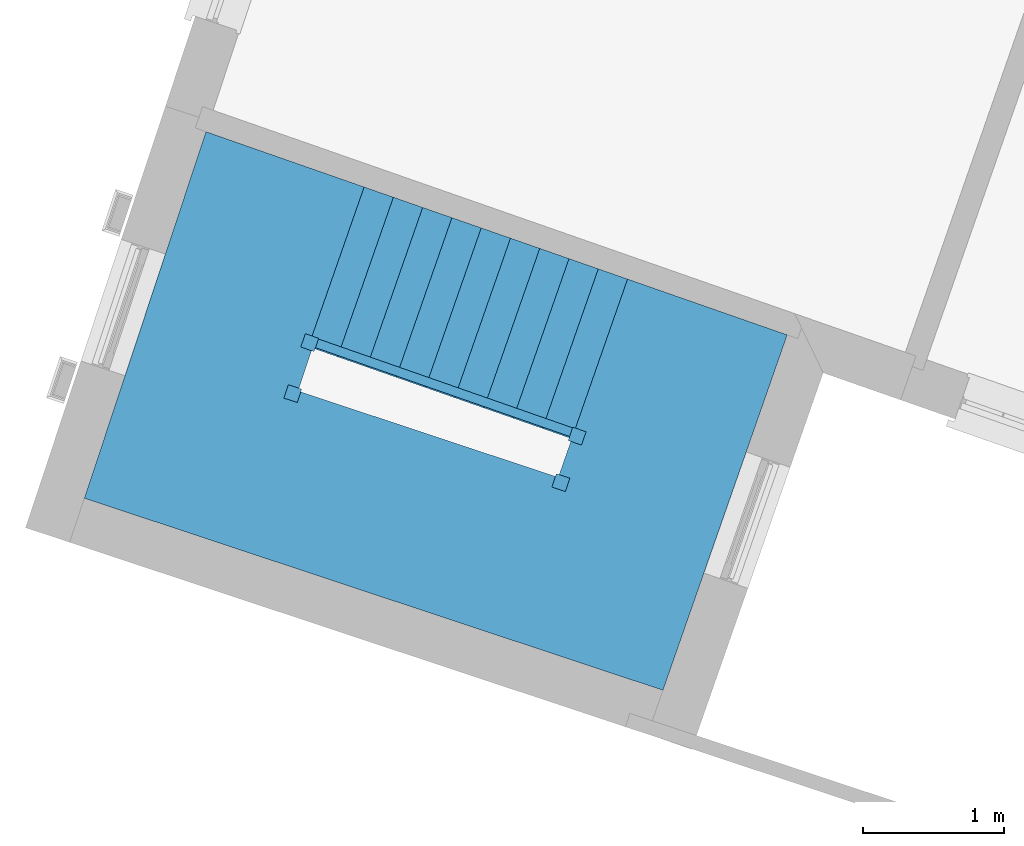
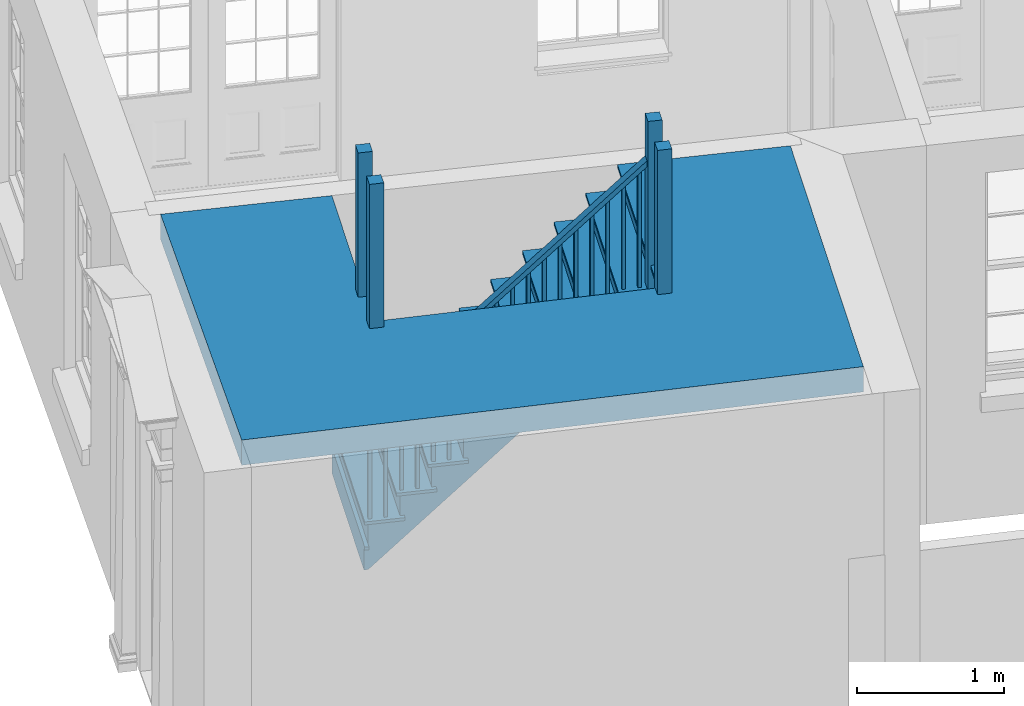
# One storey, part 10 of 10: 1 stair.
"""IFC4 building model written with IfcOpenShell, lengths in metres."""

from ifc_helpers import new_model, si_unit, frame, origin, origin_with_axes, place, context, subcontext, project, spatial, faceted_brep, element, save


model = new_model("IFC4")

# Units and contexts
model_context = context("Model", 3, world=origin_with_axes())
body_context = subcontext(model_context, "Body", "Model", "MODEL_VIEW")
ifc_project = project(units=[si_unit("PLANEANGLEUNIT", "RADIAN"), si_unit("MASSUNIT", "GRAM", prefix="KILO"), si_unit("FORCEUNIT", "NEWTON", prefix="KILO"), si_unit("LENGTHUNIT", "METRE"), si_unit("AREAUNIT", "SQUARE_METRE"), si_unit("VOLUMEUNIT", "CUBIC_METRE")], contexts=[model_context, model_context])

# Sites, building, storey
site_1_placement = place(None, origin_with_axes())
site_1 = spatial("IfcSite", under=ifc_project, at=site_1_placement, Name="Tamar")
site_2_placement = place(site_1_placement, origin_with_axes())
site_2 = spatial("IfcSite", under=site_1, at=site_2_placement, Name="Site plot-15", CompositionType="ELEMENT")
building_placement = place(None, origin_with_axes())
building = spatial("IfcBuilding", under=site_2, at=building_placement, Name="Building plot-15", CompositionType="ELEMENT")
storey_placement = place(None, frame((0.0, 0.0, 26.8), z_axis=(0.0, 0.0, 1.0), x_axis=(1.0, 0.0, 0.0)))
storey = spatial("IfcBuildingStorey", under=building, at=storey_placement, Name="plot-15 0", CompositionType="ELEMENT", Elevation=26.8)

# Stair
stair_placement = place(None, origin())
element("IfcStair", 1, at=stair_placement, inside=storey, Name="Stair", PredefinedType="NOTDEFINED", context=body_context, shape_type="Brep", body=[
    faceted_brep([(257.899192, 304.783267, 29.95), (257.530597, 303.672845, 29.95), (259.432677, 303.041466, 29.95), (259.801272, 304.151888, 29.95), (259.801272, 304.151888, 29.74), (259.432677, 303.041466, 29.74), (257.530597, 303.672845, 29.74), (257.899192, 304.783267, 29.74)], [[[0, 1, 2, 3]], [[4, 5, 6, 7]], [[7, 6, 1, 0]], [[6, 5, 2, 1]], [[5, 4, 3, 2]], [[4, 7, 0, 3]]]),
    faceted_brep([(259.801272, 304.151888, 29.925), (259.810723, 304.18036, 29.925), (259.801272, 304.151888, 29.95), (257.908643, 304.81174, 29.925), (257.899192, 304.783267, 29.925), (257.899192, 304.783267, 29.95), (259.810723, 304.18036, 29.95), (257.908643, 304.81174, 29.95)], [[[0, 1, 2]], [[3, 4, 5]], [[1, 6, 2]], [[7, 3, 5]], [[2, 6, 7, 5]], [[0, 2, 5, 4]], [[1, 0, 4, 3]], [[6, 1, 3, 7]]]),
    faceted_brep([(259.864478, 304.18359, 31.15), (259.76957, 304.215094, 31.15), (259.738066, 304.120186, 31.15), (259.832974, 304.088682, 31.15), (259.832974, 304.088682, 29.95), (259.738066, 304.120186, 29.95), (259.76957, 304.215094, 29.95), (259.864478, 304.18359, 29.95)], [[[0, 1, 2, 3]], [[4, 5, 6, 7]], [[7, 6, 1, 0]], [[6, 5, 2, 1]], [[5, 4, 3, 2]], [[4, 7, 0, 3]]]),
    faceted_brep([(259.801272, 304.151888, 29.95), (259.432677, 303.041466, 29.95), (260.525683, 302.678651, 29.95), (260.905729, 303.765786, 29.95), (260.905729, 303.765786, 29.74), (260.525683, 302.678651, 29.74), (259.432677, 303.041466, 29.74), (259.801272, 304.151888, 29.74)], [[[0, 1, 2, 3]], [[4, 5, 6, 7]], [[7, 6, 1, 0]], [[6, 5, 2, 1]], [[5, 4, 3, 2]], [[4, 7, 0, 3]]]),
    faceted_brep([(260.905729, 303.765786, 29.925), (260.915629, 303.794106, 29.925), (260.905729, 303.765786, 29.95), (259.811172, 304.180207, 29.925), (259.801272, 304.151888, 29.925), (259.801272, 304.151888, 29.95), (260.915629, 303.794106, 29.95), (259.811172, 304.180207, 29.95)], [[[0, 1, 2]], [[3, 4, 5]], [[1, 6, 2]], [[7, 3, 5]], [[2, 6, 7, 5]], [[0, 2, 5, 4]], [[1, 0, 4, 3]], [[6, 1, 3, 7]]]),
    faceted_brep([(259.864478, 304.18359, 29.95), (259.76957, 304.215094, 29.95), (259.738066, 304.120186, 29.95), (259.832974, 304.088682, 29.95), (259.832974, 304.088682, 29.45), (259.738066, 304.120186, 29.45), (259.76957, 304.215094, 29.45), (259.864478, 304.18359, 29.45)], [[[0, 1, 2, 3]], [[4, 5, 6, 7]], [[7, 6, 1, 0]], [[6, 5, 2, 1]], [[5, 4, 3, 2]], [[4, 7, 0, 3]]]),
    faceted_brep([(259.801272, 304.151888, 29.95), (260.905729, 303.765786, 29.95), (261.021107, 304.095826, 29.95), (259.916649, 304.481928, 29.95), (259.916649, 304.481928, 29.74), (261.021107, 304.095826, 29.74), (260.905729, 303.765786, 29.74), (259.801272, 304.151888, 29.74)], [[[0, 1, 2, 3]], [[4, 5, 6, 7]], [[7, 6, 1, 0]], [[6, 5, 2, 1]], [[5, 4, 3, 2]], [[4, 7, 0, 3]]]),
    faceted_brep([(259.916649, 304.481928, 29.925), (259.88833, 304.491828, 29.925), (259.916649, 304.481928, 29.95), (259.772953, 304.161788, 29.925), (259.801272, 304.151888, 29.925), (259.801272, 304.151888, 29.95), (259.88833, 304.491828, 29.95), (259.772953, 304.161788, 29.95)], [[[0, 1, 2]], [[3, 4, 5]], [[1, 6, 2]], [[7, 3, 5]], [[2, 6, 7, 5]], [[0, 2, 5, 4]], [[1, 0, 4, 3]], [[6, 1, 3, 7]]]),
    faceted_brep([(259.88595, 304.545627, 31.15), (259.85295, 304.451229, 31.15), (259.947348, 304.418229, 31.15), (259.980349, 304.512627, 31.15), (259.980349, 304.512627, 29.95), (259.947348, 304.418229, 29.95), (259.85295, 304.451229, 29.95), (259.88595, 304.545627, 29.95)], [[[0, 1, 2, 3]], [[4, 5, 6, 7]], [[7, 6, 1, 0]], [[6, 5, 2, 1]], [[5, 4, 3, 2]], [[4, 7, 0, 3]]]),
    faceted_brep([(259.916649, 304.481928, 29.95), (261.021107, 304.095826, 29.95), (261.407208, 305.200284, 29.95), (260.302751, 305.586385, 29.95), (260.302751, 305.586385, 29.74), (261.407208, 305.200284, 29.74), (261.021107, 304.095826, 29.74), (259.916649, 304.481928, 29.74)], [[[0, 1, 2, 3]], [[4, 5, 6, 7]], [[7, 6, 1, 0]], [[6, 5, 2, 1]], [[5, 4, 3, 2]], [[4, 7, 0, 3]]]),
    faceted_brep([(260.302751, 305.586385, 29.925), (260.274432, 305.596285, 29.925), (260.302751, 305.586385, 29.95), (259.88833, 304.491828, 29.925), (259.916649, 304.481928, 29.925), (259.916649, 304.481928, 29.95), (260.274432, 305.596285, 29.95), (259.88833, 304.491828, 29.95)], [[[0, 1, 2]], [[3, 4, 5]], [[1, 6, 2]], [[7, 3, 5]], [[2, 6, 7, 5]], [[0, 2, 5, 4]], [[1, 0, 4, 3]], [[6, 1, 3, 7]]]),
    faceted_brep([(259.88595, 304.545627, 29.95), (259.85295, 304.451229, 29.95), (259.947348, 304.418229, 29.95), (259.980349, 304.512627, 29.95), (259.980349, 304.512627, 29.45), (259.947348, 304.418229, 29.45), (259.85295, 304.451229, 29.45), (259.88595, 304.545627, 29.45)], [[[0, 1, 2, 3]], [[4, 5, 6, 7]], [[7, 6, 1, 0]], [[6, 5, 2, 1]], [[5, 4, 3, 2]], [[4, 7, 0, 3]]]),
    faceted_brep([(259.916649, 304.481928, 29.74), (260.302751, 305.586385, 29.74), (260.095075, 305.658986, 29.74), (259.708974, 304.554528, 29.74), (259.708974, 304.554528, 29.32), (260.095075, 305.658986, 29.32), (260.302751, 305.586385, 29.53), (259.916649, 304.481928, 29.53)], [[[0, 1, 2, 3]], [[4, 5, 6, 7]], [[7, 6, 1, 0]], [[1, 6, 5, 2]], [[5, 4, 3, 2]], [[3, 4, 7, 0]]]),
    faceted_brep([(260.066756, 305.668886, 29.715), (260.066756, 305.668886, 29.74), (260.095075, 305.658986, 29.715), (260.33107, 305.576485, 29.74), (260.33107, 305.576485, 29.715), (260.302751, 305.586385, 29.715), (260.095075, 305.658986, 29.74), (260.302751, 305.586385, 29.74), (259.670754, 304.536109, 29.74), (259.708974, 304.554528, 29.74), (259.708974, 304.554528, 29.715), (259.670754, 304.536109, 29.715), (259.935069, 304.443709, 29.74), (259.916649, 304.481928, 29.74), (259.916649, 304.481928, 29.715), (259.935069, 304.443709, 29.715)], [[[0, 1, 2]], [[3, 4, 5]], [[2, 1, 6]], [[3, 5, 7]], [[6, 1, 8, 9]], [[2, 6, 9, 10]], [[0, 2, 10, 11]], [[1, 0, 11, 8]], [[9, 8, 12, 13]], [[10, 9, 13, 14]], [[11, 10, 14, 15]], [[8, 11, 15, 12]], [[13, 12, 3, 7]], [[14, 13, 7, 5]], [[15, 14, 5, 4]], [[12, 15, 4, 3]]]),
    faceted_brep([(259.708974, 304.554528, 30.64), (259.732573, 304.546278, 30.64), (259.740823, 304.569878, 30.64), (259.717224, 304.578128, 30.64), (259.717224, 304.578128, 29.74), (259.740823, 304.569878, 29.74), (259.732573, 304.546278, 29.74), (259.708974, 304.554528, 29.74)], [[[0, 1, 2, 3]], [[4, 5, 6, 7]], [[7, 6, 1, 0]], [[6, 5, 2, 1]], [[5, 4, 3, 2]], [[4, 7, 0, 3]]]),
    faceted_brep([(259.812812, 304.518228, 30.745), (259.836411, 304.509978, 30.745), (259.844661, 304.533578, 30.745), (259.821062, 304.541828, 30.745), (259.821062, 304.541828, 29.74), (259.844661, 304.533578, 29.74), (259.836411, 304.509978, 29.74), (259.812812, 304.518228, 29.74)], [[[0, 1, 2, 3]], [[4, 5, 6, 7]], [[7, 6, 1, 0]], [[6, 5, 2, 1]], [[5, 4, 3, 2]], [[4, 7, 0, 3]]]),
    faceted_brep([(259.723824, 304.597008, 30.59), (259.702374, 304.535649, 30.59), (259.702374, 304.535649, 30.64), (259.723824, 304.597008, 30.64), (259.910049, 304.463048, 30.8), (259.9315, 304.524407, 30.8), (259.9315, 304.524407, 30.85), (259.910049, 304.463048, 30.85)], [[[0, 1, 2, 3]], [[4, 5, 6, 7]], [[0, 5, 4, 1]], [[3, 2, 7, 6]], [[0, 3, 6, 5]], [[2, 1, 4, 7]]]),
    faceted_brep([(259.708974, 304.554528, 29.53), (260.095075, 305.658986, 29.53), (259.8874, 305.731586, 29.53), (259.501298, 304.627129, 29.53), (259.501298, 304.627129, 29.11), (259.8874, 305.731586, 29.11), (260.095075, 305.658986, 29.32), (259.708974, 304.554528, 29.32)], [[[0, 1, 2, 3]], [[4, 5, 6, 7]], [[7, 6, 1, 0]], [[1, 6, 5, 2]], [[5, 4, 3, 2]], [[3, 4, 7, 0]]]),
    faceted_brep([(259.8874, 305.731586, 29.505), (259.85908, 305.741486, 29.505), (259.8874, 305.731586, 29.53), (260.123395, 305.649085, 29.505), (260.095075, 305.658986, 29.505), (260.095075, 305.658986, 29.53), (259.85908, 305.741486, 29.53), (260.123395, 305.649085, 29.53), (259.463079, 304.608709, 29.53), (259.501298, 304.627129, 29.53), (259.501298, 304.627129, 29.505), (259.463079, 304.608709, 29.505), (259.727393, 304.516309, 29.53), (259.708974, 304.554528, 29.53), (259.708974, 304.554528, 29.505), (259.727393, 304.516309, 29.505)], [[[0, 1, 2]], [[3, 4, 5]], [[1, 6, 2]], [[7, 3, 5]], [[2, 6, 8, 9]], [[0, 2, 9, 10]], [[1, 0, 10, 11]], [[6, 1, 11, 8]], [[9, 8, 12, 13]], [[10, 9, 13, 14]], [[11, 10, 14, 15]], [[8, 11, 15, 12]], [[13, 12, 7, 5]], [[14, 13, 5, 4]], [[15, 14, 4, 3]], [[12, 15, 3, 7]]]),
    faceted_brep([(259.501298, 304.627129, 30.43), (259.524898, 304.618879, 30.43), (259.533148, 304.642478, 30.43), (259.509548, 304.650728, 30.43), (259.509548, 304.650728, 29.53), (259.533148, 304.642478, 29.53), (259.524898, 304.618879, 29.53), (259.501298, 304.627129, 29.53)], [[[0, 1, 2, 3]], [[4, 5, 6, 7]], [[7, 6, 1, 0]], [[6, 5, 2, 1]], [[5, 4, 3, 2]], [[4, 7, 0, 3]]]),
    faceted_brep([(259.605136, 304.590829, 30.535), (259.628735, 304.582579, 30.535), (259.636985, 304.606178, 30.535), (259.613386, 304.614428, 30.535), (259.613386, 304.614428, 29.53), (259.636985, 304.606178, 29.53), (259.628735, 304.582579, 29.53), (259.605136, 304.590829, 29.53)], [[[0, 1, 2, 3]], [[4, 5, 6, 7]], [[7, 6, 1, 0]], [[6, 5, 2, 1]], [[5, 4, 3, 2]], [[4, 7, 0, 3]]]),
    faceted_brep([(259.516148, 304.669608, 30.38), (259.494698, 304.608249, 30.38), (259.494698, 304.608249, 30.43), (259.516148, 304.669608, 30.43), (259.702374, 304.535649, 30.59), (259.723824, 304.597008, 30.59), (259.723824, 304.597008, 30.64), (259.702374, 304.535649, 30.64)], [[[0, 1, 2, 3]], [[4, 5, 6, 7]], [[0, 5, 4, 1]], [[3, 2, 7, 6]], [[0, 3, 6, 5]], [[2, 1, 4, 7]]]),
    faceted_brep([(259.501298, 304.627129, 29.32), (259.8874, 305.731586, 29.32), (259.679724, 305.804186, 29.32), (259.293622, 304.699729, 29.32), (259.293622, 304.699729, 28.9), (259.679724, 305.804186, 28.9), (259.8874, 305.731586, 29.11), (259.501298, 304.627129, 29.11)], [[[0, 1, 2, 3]], [[4, 5, 6, 7]], [[7, 6, 1, 0]], [[1, 6, 5, 2]], [[5, 4, 3, 2]], [[3, 4, 7, 0]]]),
    faceted_brep([(259.679724, 305.804186, 29.295), (259.651405, 305.814086, 29.295), (259.679724, 305.804186, 29.32), (259.915719, 305.721686, 29.295), (259.8874, 305.731586, 29.295), (259.8874, 305.731586, 29.32), (259.651405, 305.814086, 29.32), (259.915719, 305.721686, 29.32), (259.255403, 304.68131, 29.32), (259.293622, 304.699729, 29.32), (259.293622, 304.699729, 29.295), (259.255403, 304.68131, 29.295), (259.519717, 304.588909, 29.32), (259.501298, 304.627129, 29.32), (259.501298, 304.627129, 29.295), (259.519717, 304.588909, 29.295)], [[[0, 1, 2]], [[3, 4, 5]], [[1, 6, 2]], [[7, 3, 5]], [[2, 6, 8, 9]], [[0, 2, 9, 10]], [[1, 0, 10, 11]], [[6, 1, 11, 8]], [[9, 8, 12, 13]], [[10, 9, 13, 14]], [[11, 10, 14, 15]], [[8, 11, 15, 12]], [[13, 12, 7, 5]], [[14, 13, 5, 4]], [[15, 14, 4, 3]], [[12, 15, 3, 7]]]),
    faceted_brep([(259.293622, 304.699729, 30.22), (259.317222, 304.691479, 30.22), (259.325472, 304.715078, 30.22), (259.301872, 304.723329, 30.22), (259.301872, 304.723329, 29.32), (259.325472, 304.715078, 29.32), (259.317222, 304.691479, 29.32), (259.293622, 304.699729, 29.32)], [[[0, 1, 2, 3]], [[4, 5, 6, 7]], [[7, 6, 1, 0]], [[6, 5, 2, 1]], [[5, 4, 3, 2]], [[4, 7, 0, 3]]]),
    faceted_brep([(259.39746, 304.663429, 30.325), (259.42106, 304.655179, 30.325), (259.42931, 304.678778, 30.325), (259.40571, 304.687028, 30.325), (259.40571, 304.687028, 29.32), (259.42931, 304.678778, 29.32), (259.42106, 304.655179, 29.32), (259.39746, 304.663429, 29.32)], [[[0, 1, 2, 3]], [[4, 5, 6, 7]], [[7, 6, 1, 0]], [[6, 5, 2, 1]], [[5, 4, 3, 2]], [[4, 7, 0, 3]]]),
    faceted_brep([(259.308472, 304.742208, 30.17), (259.287022, 304.680849, 30.17), (259.287022, 304.680849, 30.22), (259.308472, 304.742208, 30.22), (259.494698, 304.608249, 30.38), (259.516148, 304.669608, 30.38), (259.516148, 304.669608, 30.43), (259.494698, 304.608249, 30.43)], [[[0, 1, 2, 3]], [[4, 5, 6, 7]], [[0, 5, 4, 1]], [[3, 2, 7, 6]], [[0, 3, 6, 5]], [[2, 1, 4, 7]]]),
    faceted_brep([(259.293622, 304.699729, 29.11), (259.679724, 305.804186, 29.11), (259.472048, 305.876786, 29.11), (259.085947, 304.772329, 29.11), (259.085947, 304.772329, 28.69), (259.472048, 305.876786, 28.69), (259.679724, 305.804186, 28.9), (259.293622, 304.699729, 28.9)], [[[0, 1, 2, 3]], [[4, 5, 6, 7]], [[7, 6, 1, 0]], [[1, 6, 5, 2]], [[5, 4, 3, 2]], [[3, 4, 7, 0]]]),
    faceted_brep([(259.443729, 305.886686, 29.085), (259.443729, 305.886686, 29.11), (259.472048, 305.876786, 29.085), (259.708043, 305.794286, 29.11), (259.708043, 305.794286, 29.085), (259.679724, 305.804186, 29.085), (259.472048, 305.876786, 29.11), (259.679724, 305.804186, 29.11), (259.047727, 304.75391, 29.11), (259.085947, 304.772329, 29.11), (259.085947, 304.772329, 29.085), (259.047727, 304.75391, 29.085), (259.312042, 304.66151, 29.11), (259.293622, 304.699729, 29.11), (259.293622, 304.699729, 29.085), (259.312042, 304.66151, 29.085)], [[[0, 1, 2]], [[3, 4, 5]], [[2, 1, 6]], [[3, 5, 7]], [[6, 1, 8, 9]], [[2, 6, 9, 10]], [[0, 2, 10, 11]], [[1, 0, 11, 8]], [[9, 8, 12, 13]], [[10, 9, 13, 14]], [[11, 10, 14, 15]], [[8, 11, 15, 12]], [[13, 12, 3, 7]], [[14, 13, 7, 5]], [[15, 14, 5, 4]], [[12, 15, 4, 3]]]),
    faceted_brep([(259.085947, 304.772329, 30.01), (259.109546, 304.764079, 30.01), (259.117796, 304.787679, 30.01), (259.094197, 304.795929, 30.01), (259.094197, 304.795929, 29.11), (259.117796, 304.787679, 29.11), (259.109546, 304.764079, 29.11), (259.085947, 304.772329, 29.11)], [[[0, 1, 2, 3]], [[4, 5, 6, 7]], [[7, 6, 1, 0]], [[6, 5, 2, 1]], [[5, 4, 3, 2]], [[4, 7, 0, 3]]]),
    faceted_brep([(259.189784, 304.736029, 30.115), (259.213384, 304.727779, 30.115), (259.221634, 304.751379, 30.115), (259.198035, 304.759629, 30.115), (259.198035, 304.759629, 29.11), (259.221634, 304.751379, 29.11), (259.213384, 304.727779, 29.11), (259.189784, 304.736029, 29.11)], [[[0, 1, 2, 3]], [[4, 5, 6, 7]], [[7, 6, 1, 0]], [[6, 5, 2, 1]], [[5, 4, 3, 2]], [[4, 7, 0, 3]]]),
    faceted_brep([(259.100797, 304.814808, 29.96), (259.079347, 304.75345, 29.96), (259.079347, 304.75345, 30.01), (259.100797, 304.814808, 30.01), (259.287022, 304.680849, 30.17), (259.308472, 304.742208, 30.17), (259.308472, 304.742208, 30.22), (259.287022, 304.680849, 30.22)], [[[0, 1, 2, 3]], [[4, 5, 6, 7]], [[0, 5, 4, 1]], [[3, 2, 7, 6]], [[0, 3, 6, 5]], [[2, 1, 4, 7]]]),
    faceted_brep([(259.085947, 304.772329, 28.9), (259.472048, 305.876786, 28.9), (259.264373, 305.949387, 28.9), (258.878271, 304.84493, 28.9), (258.878271, 304.84493, 28.48), (259.264373, 305.949387, 28.48), (259.472048, 305.876786, 28.69), (259.085947, 304.772329, 28.69)], [[[0, 1, 2, 3]], [[4, 5, 6, 7]], [[7, 6, 1, 0]], [[1, 6, 5, 2]], [[5, 4, 3, 2]], [[3, 4, 7, 0]]]),
    faceted_brep([(259.236053, 305.959287, 28.875), (259.236053, 305.959287, 28.9), (259.264373, 305.949387, 28.875), (259.500368, 305.866886, 28.9), (259.500368, 305.866886, 28.875), (259.472048, 305.876786, 28.875), (259.264373, 305.949387, 28.9), (259.472048, 305.876786, 28.9), (258.840051, 304.82651, 28.9), (258.878271, 304.84493, 28.9), (258.878271, 304.84493, 28.875), (258.840051, 304.82651, 28.875), (259.104366, 304.73411, 28.9), (259.085947, 304.772329, 28.9), (259.085947, 304.772329, 28.875), (259.104366, 304.73411, 28.875)], [[[0, 1, 2]], [[3, 4, 5]], [[2, 1, 6]], [[3, 5, 7]], [[6, 1, 8, 9]], [[2, 6, 9, 10]], [[0, 2, 10, 11]], [[1, 0, 11, 8]], [[9, 8, 12, 13]], [[10, 9, 13, 14]], [[11, 10, 14, 15]], [[8, 11, 15, 12]], [[13, 12, 3, 7]], [[14, 13, 7, 5]], [[15, 14, 5, 4]], [[12, 15, 4, 3]]]),
    faceted_brep([(258.878271, 304.84493, 29.8), (258.90187, 304.83668, 29.8), (258.91012, 304.860279, 29.8), (258.886521, 304.868529, 29.8), (258.886521, 304.868529, 28.9), (258.91012, 304.860279, 28.9), (258.90187, 304.83668, 28.9), (258.878271, 304.84493, 28.9)], [[[0, 1, 2, 3]], [[4, 5, 6, 7]], [[7, 6, 1, 0]], [[6, 5, 2, 1]], [[5, 4, 3, 2]], [[4, 7, 0, 3]]]),
    faceted_brep([(258.982109, 304.808629, 29.905), (259.005708, 304.800379, 29.905), (259.013958, 304.823979, 29.905), (258.990359, 304.832229, 29.905), (258.990359, 304.832229, 28.9), (259.013958, 304.823979, 28.9), (259.005708, 304.800379, 28.9), (258.982109, 304.808629, 28.9)], [[[0, 1, 2, 3]], [[4, 5, 6, 7]], [[7, 6, 1, 0]], [[6, 5, 2, 1]], [[5, 4, 3, 2]], [[4, 7, 0, 3]]]),
    faceted_brep([(258.893121, 304.887409, 29.75), (258.871671, 304.82605, 29.75), (258.871671, 304.82605, 29.8), (258.893121, 304.887409, 29.8), (259.079347, 304.75345, 29.96), (259.100797, 304.814808, 29.96), (259.100797, 304.814808, 30.01), (259.079347, 304.75345, 30.01)], [[[0, 1, 2, 3]], [[4, 5, 6, 7]], [[0, 5, 4, 1]], [[3, 2, 7, 6]], [[0, 3, 6, 5]], [[2, 1, 4, 7]]]),
    faceted_brep([(258.878271, 304.84493, 28.69), (259.264373, 305.949387, 28.69), (259.056697, 306.021987, 28.69), (258.670595, 304.91753, 28.69), (258.670595, 304.91753, 28.27), (259.056697, 306.021987, 28.27), (259.264373, 305.949387, 28.48), (258.878271, 304.84493, 28.48)], [[[0, 1, 2, 3]], [[4, 5, 6, 7]], [[7, 6, 1, 0]], [[1, 6, 5, 2]], [[5, 4, 3, 2]], [[3, 4, 7, 0]]]),
    faceted_brep([(259.056697, 306.021987, 28.665), (259.028377, 306.031887, 28.665), (259.056697, 306.021987, 28.69), (259.292692, 305.939487, 28.665), (259.264373, 305.949387, 28.665), (259.264373, 305.949387, 28.69), (259.028377, 306.031887, 28.69), (259.292692, 305.939487, 28.69), (258.632376, 304.899111, 28.69), (258.670595, 304.91753, 28.69), (258.670595, 304.91753, 28.665), (258.632376, 304.899111, 28.665), (258.89669, 304.80671, 28.69), (258.878271, 304.84493, 28.69), (258.878271, 304.84493, 28.665), (258.89669, 304.80671, 28.665)], [[[0, 1, 2]], [[3, 4, 5]], [[1, 6, 2]], [[7, 3, 5]], [[2, 6, 8, 9]], [[0, 2, 9, 10]], [[1, 0, 10, 11]], [[6, 1, 11, 8]], [[9, 8, 12, 13]], [[10, 9, 13, 14]], [[11, 10, 14, 15]], [[8, 11, 15, 12]], [[13, 12, 7, 5]], [[14, 13, 5, 4]], [[15, 14, 4, 3]], [[12, 15, 3, 7]]]),
    faceted_brep([(258.670595, 304.91753, 29.59), (258.694195, 304.90928, 29.59), (258.702445, 304.932879, 29.59), (258.678845, 304.941129, 29.59), (258.678845, 304.941129, 28.69), (258.702445, 304.932879, 28.69), (258.694195, 304.90928, 28.69), (258.670595, 304.91753, 28.69)], [[[0, 1, 2, 3]], [[4, 5, 6, 7]], [[7, 6, 1, 0]], [[6, 5, 2, 1]], [[5, 4, 3, 2]], [[4, 7, 0, 3]]]),
    faceted_brep([(258.774433, 304.88123, 29.695), (258.798033, 304.87298, 29.695), (258.806283, 304.896579, 29.695), (258.782683, 304.904829, 29.695), (258.782683, 304.904829, 28.69), (258.806283, 304.896579, 28.69), (258.798033, 304.87298, 28.69), (258.774433, 304.88123, 28.69)], [[[0, 1, 2, 3]], [[4, 5, 6, 7]], [[7, 6, 1, 0]], [[6, 5, 2, 1]], [[5, 4, 3, 2]], [[4, 7, 0, 3]]]),
    faceted_brep([(258.685445, 304.960009, 29.54), (258.663995, 304.89865, 29.54), (258.663995, 304.89865, 29.59), (258.685445, 304.960009, 29.59), (258.871671, 304.82605, 29.75), (258.893121, 304.887409, 29.75), (258.893121, 304.887409, 29.8), (258.871671, 304.82605, 29.8)], [[[0, 1, 2, 3]], [[4, 5, 6, 7]], [[0, 5, 4, 1]], [[3, 2, 7, 6]], [[0, 3, 6, 5]], [[2, 1, 4, 7]]]),
    faceted_brep([(258.670595, 304.91753, 28.48), (259.056697, 306.021987, 28.48), (258.849021, 306.094587, 28.48), (258.46292, 304.99013, 28.48), (258.46292, 304.99013, 28.06), (258.849021, 306.094587, 28.06), (259.056697, 306.021987, 28.27), (258.670595, 304.91753, 28.27)], [[[0, 1, 2, 3]], [[4, 5, 6, 7]], [[7, 6, 1, 0]], [[1, 6, 5, 2]], [[5, 4, 3, 2]], [[3, 4, 7, 0]]]),
    faceted_brep([(258.820702, 306.104487, 28.455), (258.820702, 306.104487, 28.48), (258.849021, 306.094587, 28.455), (259.085016, 306.012087, 28.48), (259.085016, 306.012087, 28.455), (259.056697, 306.021987, 28.455), (258.849021, 306.094587, 28.48), (259.056697, 306.021987, 28.48), (258.4247, 304.971711, 28.48), (258.46292, 304.99013, 28.48), (258.46292, 304.99013, 28.455), (258.4247, 304.971711, 28.455), (258.689015, 304.87931, 28.48), (258.670595, 304.91753, 28.48), (258.670595, 304.91753, 28.455), (258.689015, 304.87931, 28.455)], [[[0, 1, 2]], [[3, 4, 5]], [[2, 1, 6]], [[3, 5, 7]], [[6, 1, 8, 9]], [[2, 6, 9, 10]], [[0, 2, 10, 11]], [[1, 0, 11, 8]], [[9, 8, 12, 13]], [[10, 9, 13, 14]], [[11, 10, 14, 15]], [[8, 11, 15, 12]], [[13, 12, 3, 7]], [[14, 13, 7, 5]], [[15, 14, 5, 4]], [[12, 15, 4, 3]]]),
    faceted_brep([(258.46292, 304.99013, 29.38), (258.486519, 304.98188, 29.38), (258.494769, 305.00548, 29.38), (258.47117, 305.01373, 29.38), (258.47117, 305.01373, 28.48), (258.494769, 305.00548, 28.48), (258.486519, 304.98188, 28.48), (258.46292, 304.99013, 28.48)], [[[0, 1, 2, 3]], [[4, 5, 6, 7]], [[7, 6, 1, 0]], [[6, 5, 2, 1]], [[5, 4, 3, 2]], [[4, 7, 0, 3]]]),
    faceted_brep([(258.566757, 304.95383, 29.485), (258.590357, 304.94558, 29.485), (258.598607, 304.96918, 29.485), (258.575007, 304.97743, 29.485), (258.575007, 304.97743, 28.48), (258.598607, 304.96918, 28.48), (258.590357, 304.94558, 28.48), (258.566757, 304.95383, 28.48)], [[[0, 1, 2, 3]], [[4, 5, 6, 7]], [[7, 6, 1, 0]], [[6, 5, 2, 1]], [[5, 4, 3, 2]], [[4, 7, 0, 3]]]),
    faceted_brep([(258.47777, 305.032609, 29.33), (258.45632, 304.971251, 29.33), (258.45632, 304.971251, 29.38), (258.47777, 305.032609, 29.38), (258.663995, 304.89865, 29.54), (258.685445, 304.960009, 29.54), (258.685445, 304.960009, 29.59), (258.663995, 304.89865, 29.59)], [[[0, 1, 2, 3]], [[4, 5, 6, 7]], [[0, 5, 4, 1]], [[3, 2, 7, 6]], [[0, 3, 6, 5]], [[2, 1, 4, 7]]]),
    faceted_brep([(258.46292, 304.99013, 28.27), (258.849021, 306.094587, 28.27), (258.641345, 306.167188, 28.27), (258.255244, 305.062731, 28.27), (258.255244, 305.062731, 27.85), (258.641345, 306.167188, 27.85), (258.849021, 306.094587, 28.06), (258.46292, 304.99013, 28.06)], [[[0, 1, 2, 3]], [[4, 5, 6, 7]], [[7, 6, 1, 0]], [[1, 6, 5, 2]], [[5, 4, 3, 2]], [[3, 4, 7, 0]]]),
    faceted_brep([(258.641345, 306.167188, 28.245), (258.613026, 306.177088, 28.245), (258.641345, 306.167188, 28.27), (258.877341, 306.084687, 28.245), (258.849021, 306.094587, 28.245), (258.849021, 306.094587, 28.27), (258.613026, 306.177088, 28.27), (258.877341, 306.084687, 28.27), (258.217024, 305.044311, 28.27), (258.255244, 305.062731, 28.27), (258.255244, 305.062731, 28.245), (258.217024, 305.044311, 28.245), (258.481339, 304.951911, 28.27), (258.46292, 304.99013, 28.27), (258.46292, 304.99013, 28.245), (258.481339, 304.951911, 28.245)], [[[0, 1, 2]], [[3, 4, 5]], [[1, 6, 2]], [[7, 3, 5]], [[2, 6, 8, 9]], [[0, 2, 9, 10]], [[1, 0, 10, 11]], [[6, 1, 11, 8]], [[9, 8, 12, 13]], [[10, 9, 13, 14]], [[11, 10, 14, 15]], [[8, 11, 15, 12]], [[13, 12, 7, 5]], [[14, 13, 5, 4]], [[15, 14, 4, 3]], [[12, 15, 3, 7]]]),
    faceted_brep([(258.255244, 305.062731, 29.17), (258.278843, 305.05448, 29.17), (258.287093, 305.07808, 29.17), (258.263494, 305.08633, 29.17), (258.263494, 305.08633, 28.27), (258.287093, 305.07808, 28.27), (258.278843, 305.05448, 28.27), (258.255244, 305.062731, 28.27)], [[[0, 1, 2, 3]], [[4, 5, 6, 7]], [[7, 6, 1, 0]], [[6, 5, 2, 1]], [[5, 4, 3, 2]], [[4, 7, 0, 3]]]),
    faceted_brep([(258.359082, 305.02643, 29.275), (258.382681, 305.01818, 29.275), (258.390931, 305.04178, 29.275), (258.367332, 305.05003, 29.275), (258.367332, 305.05003, 28.27), (258.390931, 305.04178, 28.27), (258.382681, 305.01818, 28.27), (258.359082, 305.02643, 28.27)], [[[0, 1, 2, 3]], [[4, 5, 6, 7]], [[7, 6, 1, 0]], [[6, 5, 2, 1]], [[5, 4, 3, 2]], [[4, 7, 0, 3]]]),
    faceted_brep([(258.270094, 305.10521, 29.12), (258.248644, 305.043851, 29.12), (258.248644, 305.043851, 29.17), (258.270094, 305.10521, 29.17), (258.45632, 304.971251, 29.33), (258.47777, 305.032609, 29.33), (258.47777, 305.032609, 29.38), (258.45632, 304.971251, 29.38)], [[[0, 1, 2, 3]], [[4, 5, 6, 7]], [[0, 5, 4, 1]], [[3, 2, 7, 6]], [[0, 3, 6, 5]], [[2, 1, 4, 7]]]),
    faceted_brep([(258.255244, 305.062731, 28.06), (258.641345, 306.167188, 28.06), (258.43367, 306.239788, 28.06), (258.047568, 305.135331, 28.06), (258.047568, 305.135331, 27.64), (258.43367, 306.239788, 27.64), (258.641345, 306.167188, 27.85), (258.255244, 305.062731, 27.85)], [[[0, 1, 2, 3]], [[4, 5, 6, 7]], [[7, 6, 1, 0]], [[1, 6, 5, 2]], [[5, 4, 3, 2]], [[3, 4, 7, 0]]]),
    faceted_brep([(258.40535, 306.249688, 28.035), (258.40535, 306.249688, 28.06), (258.43367, 306.239788, 28.035), (258.669665, 306.157288, 28.06), (258.669665, 306.157288, 28.035), (258.641345, 306.167188, 28.035), (258.43367, 306.239788, 28.06), (258.641345, 306.167188, 28.06), (258.009349, 305.116911, 28.06), (258.047568, 305.135331, 28.06), (258.047568, 305.135331, 28.035), (258.009349, 305.116911, 28.035), (258.273663, 305.024511, 28.06), (258.255244, 305.062731, 28.06), (258.255244, 305.062731, 28.035), (258.273663, 305.024511, 28.035)], [[[0, 1, 2]], [[3, 4, 5]], [[2, 1, 6]], [[3, 5, 7]], [[6, 1, 8, 9]], [[2, 6, 9, 10]], [[0, 2, 10, 11]], [[1, 0, 11, 8]], [[9, 8, 12, 13]], [[10, 9, 13, 14]], [[11, 10, 14, 15]], [[8, 11, 15, 12]], [[13, 12, 3, 7]], [[14, 13, 7, 5]], [[15, 14, 5, 4]], [[12, 15, 4, 3]]]),
    faceted_brep([(258.047568, 305.135331, 28.96), (258.071168, 305.127081, 28.96), (258.079418, 305.15068, 28.96), (258.055818, 305.15893, 28.96), (258.055818, 305.15893, 28.06), (258.079418, 305.15068, 28.06), (258.071168, 305.127081, 28.06), (258.047568, 305.135331, 28.06)], [[[0, 1, 2, 3]], [[4, 5, 6, 7]], [[7, 6, 1, 0]], [[6, 5, 2, 1]], [[5, 4, 3, 2]], [[4, 7, 0, 3]]]),
    faceted_brep([(258.151406, 305.099031, 29.065), (258.175006, 305.090781, 29.065), (258.183256, 305.11438, 29.065), (258.159656, 305.12263, 29.065), (258.159656, 305.12263, 28.06), (258.183256, 305.11438, 28.06), (258.175006, 305.090781, 28.06), (258.151406, 305.099031, 28.06)], [[[0, 1, 2, 3]], [[4, 5, 6, 7]], [[7, 6, 1, 0]], [[6, 5, 2, 1]], [[5, 4, 3, 2]], [[4, 7, 0, 3]]]),
    faceted_brep([(258.062418, 305.17781, 28.91), (258.040968, 305.116451, 28.91), (258.040968, 305.116451, 28.96), (258.062418, 305.17781, 28.96), (258.248644, 305.043851, 29.12), (258.270094, 305.10521, 29.12), (258.270094, 305.10521, 29.17), (258.248644, 305.043851, 29.17)], [[[0, 1, 2, 3]], [[4, 5, 6, 7]], [[0, 5, 4, 1]], [[3, 2, 7, 6]], [[0, 3, 6, 5]], [[2, 1, 4, 7]]]),
    faceted_brep([(258.047568, 305.135331, 27.85), (258.43367, 306.239788, 27.85), (258.405435, 306.249658, 27.85), (258.019333, 305.145201, 27.85), (258.019333, 305.145201, 27.64), (258.405435, 306.249658, 27.64), (258.43367, 306.239788, 27.64), (258.047568, 305.135331, 27.64)], [[[0, 1, 2, 3]], [[4, 5, 6, 7]], [[7, 6, 1, 0]], [[6, 5, 2, 1]], [[5, 4, 3, 2]], [[4, 7, 0, 3]]]),
    faceted_brep([(258.019333, 305.145201, 27.825), (258.009433, 305.116882, 27.825), (258.019333, 305.145201, 27.85), (258.037668, 305.107011, 27.825), (258.047568, 305.135331, 27.825), (258.047568, 305.135331, 27.85), (258.009433, 305.116882, 27.85), (258.037668, 305.107011, 27.85)], [[[0, 1, 2]], [[3, 4, 5]], [[1, 6, 2]], [[7, 3, 5]], [[2, 6, 7, 5]], [[0, 2, 5, 4]], [[1, 0, 4, 3]], [[6, 1, 3, 7]]]),
    faceted_brep([(257.955634, 305.114502, 31.15), (258.050032, 305.081502, 31.15), (258.083032, 305.1759, 31.15), (257.988634, 305.2089, 31.15), (257.988634, 305.2089, 29.95), (258.083032, 305.1759, 29.95), (258.050032, 305.081502, 29.95), (257.955634, 305.114502, 29.95)], [[[0, 1, 2, 3]], [[4, 5, 6, 7]], [[7, 6, 1, 0]], [[6, 5, 2, 1]], [[5, 4, 3, 2]], [[4, 7, 0, 3]]]),
    faceted_brep([(258.019333, 305.145201, 29.95), (258.405435, 306.249658, 29.95), (257.283379, 306.641912, 29.95), (256.908911, 305.513797, 29.95), (256.908911, 305.513797, 29.74), (257.283379, 306.641912, 29.74), (258.405435, 306.249658, 29.74), (258.019333, 305.145201, 29.74)], [[[0, 1, 2, 3]], [[4, 5, 6, 7]], [[7, 6, 1, 0]], [[6, 5, 2, 1]], [[5, 4, 3, 2]], [[4, 7, 0, 3]]]),
    faceted_brep([(256.89946, 305.485324, 29.925), (256.89946, 305.485324, 29.95), (256.908911, 305.513797, 29.925), (258.009882, 305.116729, 29.95), (258.009882, 305.116729, 29.925), (258.019333, 305.145201, 29.925), (256.908911, 305.513797, 29.95), (258.019333, 305.145201, 29.95)], [[[0, 1, 2]], [[3, 4, 5]], [[2, 1, 6]], [[3, 5, 7]], [[6, 1, 3, 7]], [[2, 6, 7, 5]], [[0, 2, 5, 4]], [[1, 0, 4, 3]]]),
    faceted_brep([(257.955634, 305.114502, 29.95), (258.050032, 305.081502, 29.95), (258.083032, 305.1759, 29.95), (257.988634, 305.2089, 29.95), (257.988634, 305.2089, 29.45), (258.083032, 305.1759, 29.45), (258.050032, 305.081502, 29.45), (257.955634, 305.114502, 29.45)], [[[0, 1, 2, 3]], [[4, 5, 6, 7]], [[7, 6, 1, 0]], [[6, 5, 2, 1]], [[5, 4, 3, 2]], [[4, 7, 0, 3]]]),
    faceted_brep([(258.019333, 305.145201, 29.95), (256.908911, 305.513797, 29.95), (256.78877, 305.151862, 29.95), (257.899192, 304.783267, 29.95), (257.899192, 304.783267, 29.74), (256.78877, 305.151862, 29.74), (256.908911, 305.513797, 29.74), (258.019333, 305.145201, 29.74)], [[[0, 1, 2, 3]], [[4, 5, 6, 7]], [[7, 6, 1, 0]], [[6, 5, 2, 1]], [[5, 4, 3, 2]], [[4, 7, 0, 3]]]),
    faceted_brep([(257.927665, 304.773816, 29.925), (257.927665, 304.773816, 29.95), (257.899192, 304.783267, 29.925), (258.047806, 305.13575, 29.95), (258.047806, 305.13575, 29.925), (258.019333, 305.145201, 29.925), (257.899192, 304.783267, 29.95), (258.019333, 305.145201, 29.95)], [[[0, 1, 2]], [[3, 4, 5]], [[2, 1, 6]], [[3, 5, 7]], [[6, 1, 3, 7]], [[2, 6, 7, 5]], [[0, 2, 5, 4]], [[1, 0, 4, 3]]]),
    faceted_brep([(257.930894, 304.720061, 31.15), (257.962398, 304.814969, 31.15), (257.86749, 304.846473, 31.15), (257.835986, 304.751565, 31.15), (257.835986, 304.751565, 29.95), (257.86749, 304.846473, 29.95), (257.962398, 304.814969, 29.95), (257.930894, 304.720061, 29.95)], [[[0, 1, 2, 3]], [[4, 5, 6, 7]], [[7, 6, 1, 0]], [[6, 5, 2, 1]], [[5, 4, 3, 2]], [[4, 7, 0, 3]]]),
    faceted_brep([(257.899192, 304.783267, 29.95), (256.78877, 305.151862, 29.95), (256.420175, 304.04144, 29.95), (257.530597, 303.672845, 29.95), (257.530597, 303.672845, 29.74), (256.420175, 304.04144, 29.74), (256.78877, 305.151862, 29.74), (257.899192, 304.783267, 29.74)], [[[0, 1, 2, 3]], [[4, 5, 6, 7]], [[7, 6, 1, 0]], [[6, 5, 2, 1]], [[5, 4, 3, 2]], [[4, 7, 0, 3]]]),
    faceted_brep([(257.530597, 303.672845, 29.925), (257.559069, 303.663394, 29.925), (257.530597, 303.672845, 29.95), (257.927665, 304.773816, 29.925), (257.899192, 304.783267, 29.925), (257.899192, 304.783267, 29.95), (257.559069, 303.663394, 29.95), (257.927665, 304.773816, 29.95)], [[[0, 1, 2]], [[3, 4, 5]], [[1, 6, 2]], [[7, 3, 5]], [[2, 6, 7, 5]], [[0, 2, 5, 4]], [[1, 0, 4, 3]], [[6, 1, 3, 7]]]),
    faceted_brep([(257.930894, 304.720061, 29.95), (257.962398, 304.814969, 29.95), (257.86749, 304.846473, 29.95), (257.835986, 304.751565, 29.95), (257.835986, 304.751565, 29.45), (257.86749, 304.846473, 29.45), (257.962398, 304.814969, 29.45), (257.930894, 304.720061, 29.45)], [[[0, 1, 2, 3]], [[4, 5, 6, 7]], [[7, 6, 1, 0]], [[6, 5, 2, 1]], [[5, 4, 3, 2]], [[4, 7, 0, 3]]]),
])

save(model, "model.ifc")
